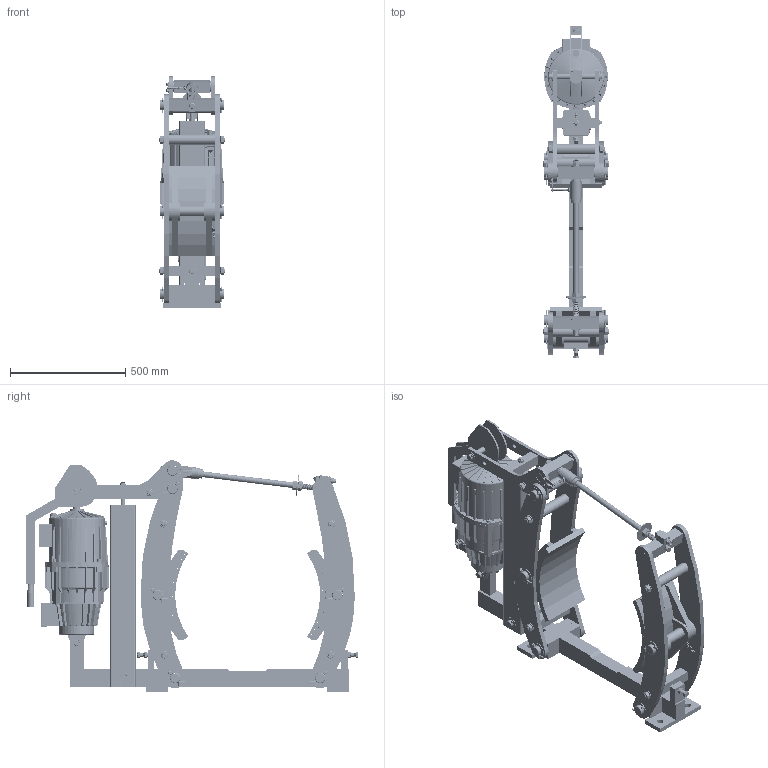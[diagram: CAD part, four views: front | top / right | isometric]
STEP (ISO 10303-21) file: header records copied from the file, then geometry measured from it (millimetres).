
FILE_DESCRIPTION((''),'2;1');
FILE_NAME('4459_634_553_E00003','2018-02-01T',('VORO'),(''),'CREO PARAMETRIC BY PTC INC, 2017170','CREO PARAMETRIC BY PTC INC, 2017170','');
FILE_SCHEMA(('CONFIG_CONTROL_DESIGN'));
Length unit declared in the file: millimetre
Products named in the file (1): 4459_634_553_E00003
Bounding box: 288.42 x 1441.87 x 1006 mm (x, y, z)
Surface area: 6425332.8 mm2 (no closed solid volume)
Topology: 0 solids, 4288 shells, 5452 faces, 30690 edges, 28252 vertices
Faces by surface type: plane 2102, cylinder 1558, cone 1509, torus 262, bspline 18, sphere 3
Entity records: 543517 total; most frequent: CARTESIAN_POINT 171047, PRESENTATION_STYLE_ASSIGNMENT 40291, DIRECTION 38168, STYLED_ITEM 34841, ORIENTED_EDGE 32931, CURVE_STYLE 30555, EDGE_CURVE 30555, VERTEX_POINT 28191
